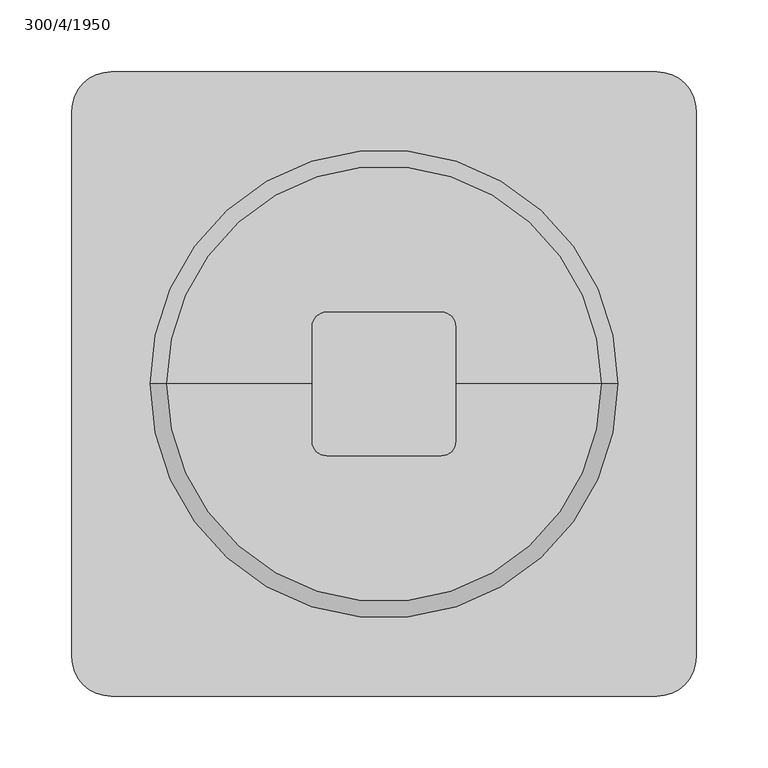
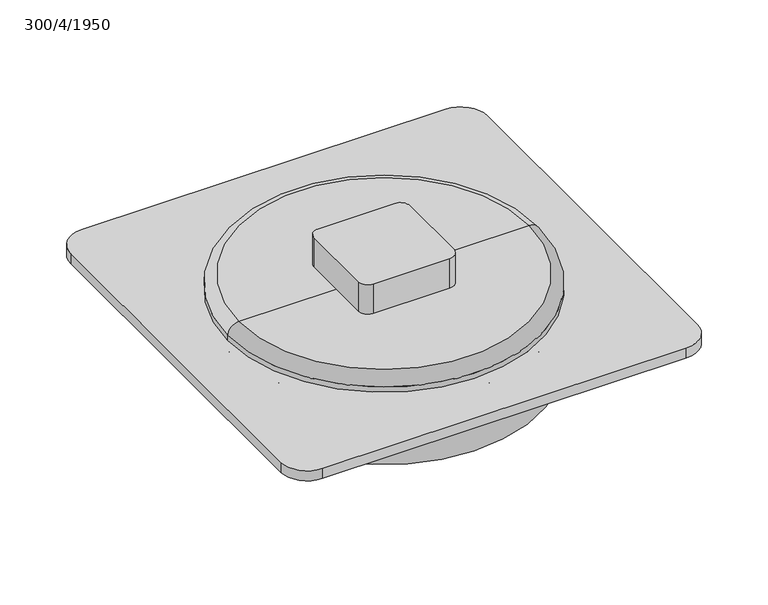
"""IFC4 building model written with IfcOpenShell, lengths in millimetres: unitary equipment geometry, VE-Wentylator-ParaForma-Harmann-SHARK-Wywiewny : 300/4/1950."""

from ifc_helpers import new_model, si_unit, point, frame, frame_2d, origin, origin_with_axes, origin_2d, place, context, project, spatial, polyline, circle_curve, ellipse_curve, trimmed, segment, composite_curve, outline, extrude, source, transform, mapped, element, save
from ifc_brep_helpers import plane_surface, cylinder_surface, revolved_surface, advanced_brep


def unitary_equipment_300_4_1950_7e46b314(model_context):
    return source(origin(), model_context, "Body", "SolidModel", [
        advanced_brep(
        [(163.0, 0.0, 11.0), (-163.0, 0.0, 11.0), (0.0, 0.0, 11.0), (163.0, 0.0, 16.6666667), (-163.0, 0.0, 16.6666667), (151.6666667, 0.0, 28.0), (-151.6666667, 0.0, 28.0), (0.0, 0.0, 28.0)],
        [
            (0, 1, circle_curve(frame((0.0, 0.0, 11.0), z_axis=(0.0, 0.0, -1.0), x_axis=(-1.0000000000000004, 0.0, 0.0)), 163.0)),
            (1, 2),
            (2, 0),
            (1, 0, circle_curve(frame((0.0, 0.0, 11.0), z_axis=(0.0, 0.0, -1.0), x_axis=(-1.0000000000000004, 0.0, 0.0)), 163.0)),
            (3, 4, circle_curve(frame((0.0, 0.0, 16.6666667), z_axis=(0.0, 0.0, -1.0), x_axis=(-1.0000000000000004, 0.0, 0.0)), 163.0)),
            (4, 1),
            (0, 3),
            (4, 3, circle_curve(frame((0.0, 0.0, 16.6666667), z_axis=(0.0, 0.0, -1.0), x_axis=(-1.0000000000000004, 0.0, 0.0)), 163.0)),
            (5, 6, circle_curve(frame((0.0, 0.0, 28.0), z_axis=(0.0, 0.0, -1.0), x_axis=(-1.0000000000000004, 0.0, 0.0)), 151.6666667)),
            (6, 4, circle_curve(frame((-151.6666667, 0.0, 16.6666667), z_axis=(0.0, -1.0000000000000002, 0.0), x_axis=(0.0, 0.0, -1.0000000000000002)), 11.3333333)),
            (3, 5, circle_curve(frame((151.6666667, 0.0, 16.6666667), z_axis=(0.0, -1.0000000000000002, 0.0), x_axis=(0.0, 0.0, -1.0000000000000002)), 11.3333333)),
            (6, 5, circle_curve(frame((0.0, 0.0, 28.0), z_axis=(0.0, 0.0, -1.0), x_axis=(-1.0000000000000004, 0.0, 0.0)), 151.6666667)),
            (7, 6),
            (5, 7),
        ],
        [
            plane_surface(frame((0.0, 0.0, 11.0), z_axis=(0.0, 0.0, -1.0), x_axis=(-1.0, 0.0, 0.0))),
            cylinder_surface(frame((0.0, 0.0, 28.0), z_axis=(0.0, 0.0, 1.0000000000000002), x_axis=(-1.0000000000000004, 0.0, 0.0)), 163.0),
            revolved_surface(trimmed(ellipse_curve(frame((-151.6666667, 0.0, 16.6666667), z_axis=(0.0, 1.0000000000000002, 0.0), x_axis=(0.0, 0.0, -1.0000000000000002)), 11.3333333, 11.3333333), [point((-163.0, 0.0, 16.6666667))], [point((-151.6666667, 0.0, 28.0))], True, "CARTESIAN"), (0.0, 0.0, 28.0), (0.0, 0.0, 1.0000000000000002)),
            plane_surface(frame((0.0, 0.0, 28.0), z_axis=(0.0, 0.0, 1.0), x_axis=(-1.0, 0.0, 0.0))),
        ],
        [
            (0, [[1, 2, 3]]),
            (0, [[4, -3, -2]]),
            (1, [[5, 6, -1, 7]]),
            (1, [[8, -7, -4, -6]]),
            (2, [[9, 10, -5, 11]]),
            (2, [[12, -11, -8, -10]]),
            (3, [[13, -9, 14]]),
            (3, [[-14, -12, -13]]),
        ],
    ),
        extrude(outline(composite_curve([segment(trimmed(circle_curve(origin_2d(), 50.0), [point((-50.0, 0.0))], [point((50.0, 0.0))], False, "CARTESIAN"), True, "CONTINUOUS"), segment(trimmed(circle_curve(origin_2d(), 50.0), [point((50.0, 0.0))], [point((-50.0, 0.0))], False, "CARTESIAN"), True, "CONTINUOUS")], self_intersect=False)), frame((0.0, 0.0, -69.0), z_axis=(0.0, 0.0, 1.0), x_axis=(1.0, 0.0, 0.0)), (0.0, 0.0, 1.0), 7.0),
        advanced_brep(
        [(0.0, 0.0, 0.0), (-164.0, 0.0, 0.0), (164.0, 0.0, 0.0), (163.0, 0.0, -69.0), (-163.0, 0.0, -69.0), (0.0, 0.0, -69.0), (163.0, 0.0, -1.0), (-163.0, 0.0, -1.0)],
        [
            (0, 1),
            (1, 2, circle_curve(frame((0.0, 0.0, 0.0), z_axis=(0.0, 0.0, 1.0), x_axis=(-1.0000000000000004, 0.0, 0.0)), 164.0)),
            (2, 0),
            (2, 1, circle_curve(frame((0.0, 0.0, 0.0), z_axis=(0.0, 0.0, 1.0), x_axis=(-1.0000000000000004, 0.0, 0.0)), 164.0)),
            (3, 4, circle_curve(frame((0.0, 0.0, -69.0), z_axis=(0.0, 0.0, -1.0), x_axis=(-1.0000000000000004, 0.0, 0.0)), 163.0)),
            (4, 5),
            (5, 3),
            (4, 3, circle_curve(frame((0.0, 0.0, -69.0), z_axis=(0.0, 0.0, -1.0), x_axis=(-1.0000000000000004, 0.0, 0.0)), 163.0)),
            (6, 7, circle_curve(frame((0.0, 0.0, -1.0), z_axis=(0.0, 0.0, -1.0), x_axis=(-1.0000000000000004, 0.0, 0.0)), 163.0)),
            (7, 4),
            (3, 6),
            (7, 6, circle_curve(frame((0.0, 0.0, -1.0), z_axis=(0.0, 0.0, -1.0), x_axis=(-1.0000000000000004, 0.0, 0.0)), 163.0)),
            (1, 7, circle_curve(frame((-164.0, 0.0, -1.0), z_axis=(0.0, 1.0000000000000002, 0.0), x_axis=(0.0, 0.0, -1.0000000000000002)), 1.0)),
            (6, 2, circle_curve(frame((164.0, 0.0, -1.0), z_axis=(0.0, 1.0000000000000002, 0.0), x_axis=(0.0, 0.0, -1.0000000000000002)), 1.0)),
        ],
        [
            plane_surface(frame((0.0, 0.0, 0.0), z_axis=(0.0, 0.0, 1.0), x_axis=(-1.0, 0.0, 0.0))),
            plane_surface(frame((0.0, 0.0, -69.0), z_axis=(0.0, 0.0, -1.0), x_axis=(-1.0, 0.0, 0.0))),
            cylinder_surface(frame((0.0, 0.0, 0.0), z_axis=(0.0, 0.0, 1.0000000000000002), x_axis=(-1.0000000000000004, 0.0, 0.0)), 163.0),
            revolved_surface(trimmed(ellipse_curve(frame((-164.0, 0.0, -1.0), z_axis=(0.0, -1.0000000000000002, 0.0), x_axis=(0.0, 0.0, -1.0000000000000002)), 1.0, 1.0), [point((-163.0, 0.0, -1.0))], [point((-164.0, 0.0, 0.0))], True, "CARTESIAN"), (0.0, 0.0, 0.0), (0.0, 0.0, 1.0000000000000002)),
        ],
        [
            (0, [[1, 2, 3]]),
            (0, [[-3, 4, -1]]),
            (1, [[5, 6, 7]]),
            (1, [[8, -7, -6]]),
            (2, [[9, 10, -5, 11]]),
            (2, [[12, -11, -8, -10]]),
            (3, [[-2, 13, -9, 14]]),
            (3, [[-4, -14, -12, -13]]),
        ],
    ),
        extrude(outline(composite_curve([segment(polyline([(40.0, -50.0), (-40.0, -50.0)]), True, "CONTINUOUS"), segment(trimmed(circle_curve(frame_2d((-40.0, -40.0)), 10.0), [point((-40.0, -50.0))], [point((-50.0, -40.0))], False, "CARTESIAN"), True, "CONTINUOUS"), segment(polyline([(-50.0, -40.0), (-50.0, 40.0)]), True, "CONTINUOUS"), segment(trimmed(circle_curve(frame_2d((-40.0, 40.0)), 10.0), [point((-50.0, 40.0))], [point((-40.0, 50.0))], False, "CARTESIAN"), True, "CONTINUOUS"), segment(polyline([(-40.0, 50.0), (40.0, 50.0)]), True, "CONTINUOUS"), segment(trimmed(circle_curve(frame_2d((40.0, 40.0)), 10.0), [point((40.0, 50.0))], [point((50.0, 40.0))], False, "CARTESIAN"), True, "CONTINUOUS"), segment(polyline([(50.0, 40.0), (50.0, -40.0)]), True, "CONTINUOUS"), segment(trimmed(circle_curve(frame_2d((40.0, -40.0)), 10.0), [point((50.0, -40.0))], [point((40.0, -50.0))], False, "CARTESIAN"), True, "CONTINUOUS")], self_intersect=False)), frame((0.0, 0.0, 28.0), z_axis=(0.0, 0.0, 1.0), x_axis=(1.0, 0.0, 0.0)), (0.0, 0.0, 1.0), 33.0),
        extrude(outline(composite_curve([segment(polyline([(190.0, -217.5), (-190.0, -217.5)]), True, "CONTINUOUS"), segment(trimmed(circle_curve(frame_2d((-190.0, -190.0)), 27.5), [point((-190.0, -217.5))], [point((-217.5, -190.0))], False, "CARTESIAN"), True, "CONTINUOUS"), segment(polyline([(-217.5, -190.0), (-217.5, 190.0)]), True, "CONTINUOUS"), segment(trimmed(circle_curve(frame_2d((-190.0, 190.0)), 27.5), [point((-217.5, 190.0))], [point((-190.0, 217.5))], False, "CARTESIAN"), True, "CONTINUOUS"), segment(polyline([(-190.0, 217.5), (190.0, 217.5)]), True, "CONTINUOUS"), segment(trimmed(circle_curve(frame_2d((190.0, 190.0)), 27.5), [point((190.0, 217.5))], [point((217.5, 190.0))], False, "CARTESIAN"), True, "CONTINUOUS"), segment(polyline([(217.5, 190.0), (217.5, -190.0)]), True, "CONTINUOUS"), segment(trimmed(circle_curve(frame_2d((190.0, -190.0)), 27.5), [point((217.5, -190.0))], [point((190.0, -217.5))], False, "CARTESIAN"), True, "CONTINUOUS")], self_intersect=False)), origin_with_axes(), (0.0, 0.0, 1.0), 11.0),
    ])


if __name__ == "__main__":
    model = new_model("IFC4")
    model_context = context("Model", 3, world=origin())
    ifc_project = project(units=[si_unit("LENGTHUNIT", "METRE", prefix="MILLI")], contexts=[model_context])
    site = spatial("IfcSite", under=ifc_project)
    building = spatial("IfcBuilding", under=site)
    placement = place(None, origin())
    unitary_equipment_300_4_1950_shape = unitary_equipment_300_4_1950_7e46b314(model_context)
    element("IfcUnitaryEquipment", 1, ObjectType="VE-Wentylator-ParaForma-Harmann-SHARK-Wywiewny : 300/4/1950", at=placement, inside=building, context=model_context, shape_type="MappedRepresentation", body=[
        mapped(unitary_equipment_300_4_1950_shape, transform((0.0, 0.0, 0.0), x_axis=(1.0, 0.0, 0.0), y_axis=(0.0, 1.0, 0.0), z_axis=(0.0, 0.0, 1.0))),
    ])
    save(model, "model.ifc")
